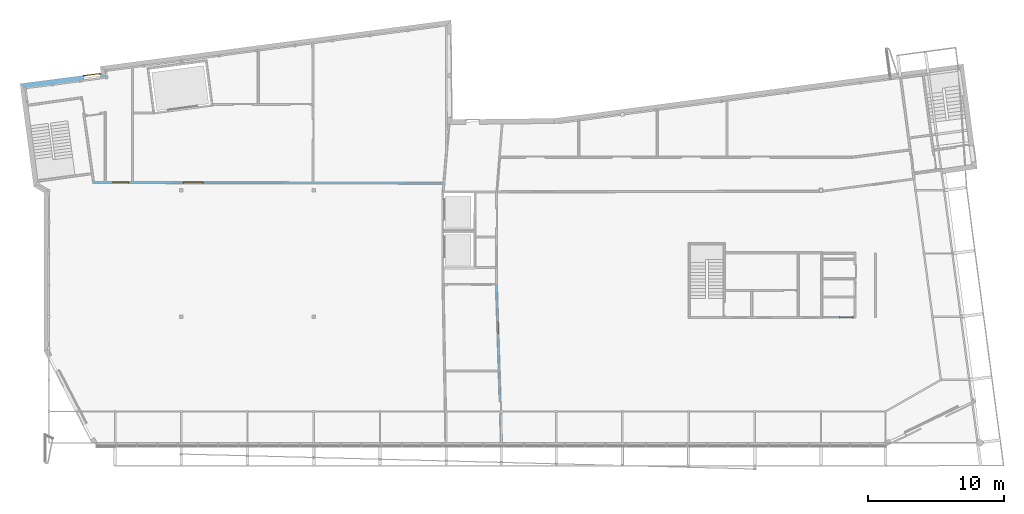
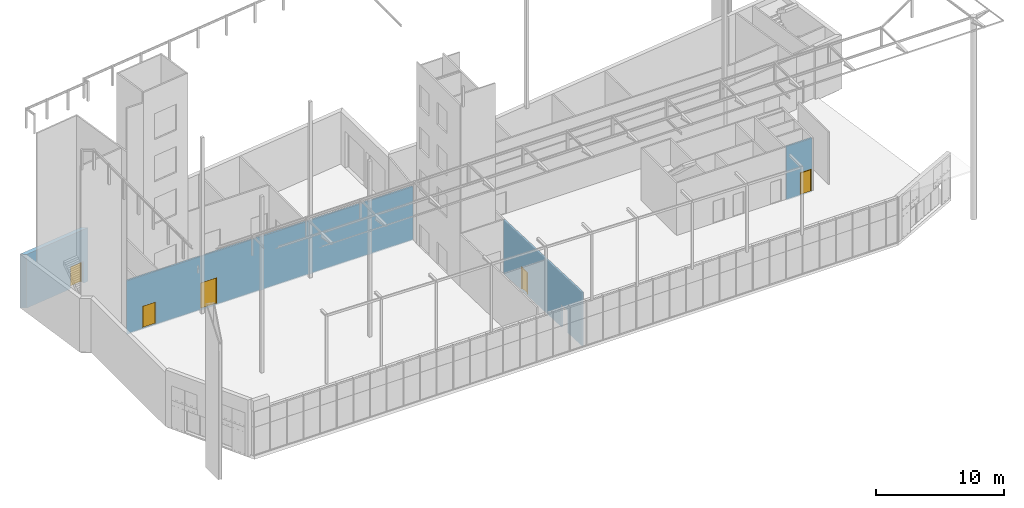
# One storey, part 32 of 40: 5 doors, 6 openings, plus 4 elements that do not belong to this part.
"""IFC2X3 building model written with IfcOpenShell, lengths in metres."""

from ifc_helpers import new_model, entity, si_unit, converted_unit, money_unit, direction, frame, origin_with_axes, origin_2d_with_axis, place, context, subcontext, project, spatial, polyline, rectangle, outline, extrude, faceted_brep, source, transform, mapped, material, material_list, layer, layer_set, layer_usage, type_object, element, fill, save


model = new_model("IFC2X3")

# Units and contexts
model_context = context("Model", 3, precision=1e-05, world=origin_with_axes(), true_north=direction((0.0, 1.0)))
body_context = subcontext(model_context, "Body", "Model", "MODEL_VIEW")
ifc_project = project(units=[si_unit("LENGTHUNIT", "METRE"), si_unit("AREAUNIT", "SQUARE_METRE"), si_unit("VOLUMEUNIT", "CUBIC_METRE"), converted_unit("PLANEANGLEUNIT", "DEGREE", entity("IfcPlaneAngleMeasure", 0.0174532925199), si_unit("PLANEANGLEUNIT", "RADIAN"), dimensions=[0, 0, 0, 0, 0, 0, 0]), si_unit("SOLIDANGLEUNIT", "STERADIAN"), money_unit("EUR"), converted_unit("TIMEUNIT", "Year", entity("IfcTimeMeasure", 31556926.0), si_unit("TIMEUNIT", "SECOND"), dimensions=[0, 0, 0, 0, 0, 0, 0]), si_unit("MASSUNIT", "GRAM"), si_unit("THERMODYNAMICTEMPERATUREUNIT", "DEGREE_CELSIUS"), si_unit("LUMINOUSINTENSITYUNIT", "LUMEN")], contexts=[model_context])

# Site, building, storey
site_placement = place(None, origin_with_axes())
site = spatial("IfcSite", under=ifc_project, at=site_placement, Name="Undefined", CompositionType="ELEMENT")
building_placement = place(site_placement, origin_with_axes())
building = spatial("IfcBuilding", under=site, at=building_placement, Name="Undefined", CompositionType="ELEMENT")
storey_placement = place(building_placement, origin_with_axes())
storey = spatial("IfcBuildingStorey", under=building, at=storey_placement, Name="Rez de chauss\x8ee", CompositionType="ELEMENT", Elevation=0.0)

# Wall, openings, door
ifc_material_1 = material(Name="Finition int - Enduit pl\x89tre")
ifc_layer_1 = layer(ifc_material_1, 0.015, ventilated="UNKNOWN")
ifc_material_2 = material(Name="Struct. - Parpaing b\x8eton")
ifc_layer_2 = layer(ifc_material_2, 0.1, ventilated="UNKNOWN")
ifc_layer_3 = layer(ifc_material_1, 0.015, ventilated="UNKNOWN")
ifc_layer_set_1 = layer_set([ifc_layer_1, ifc_layer_2, ifc_layer_3], Name="0.0-Cloison: parpaing + pl\x89tre 2 faces copie")
ifc_layer_usage_1 = layer_usage(ifc_layer_set_1, "AXIS2", "NEGATIVE", 0.0)
wall_type_1 = type_object("IfcWallType", Name="0.0-Cloison: parpaing + pl\x89tre 2 faces copie 130", PredefinedType="NOTDEFINED")
wall_1_placement = place(storey_placement, frame((33.0137357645, 11.6299225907, 0.0), z_axis=(0.0, 0.0, 1.0), x_axis=(0.0316585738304, -0.999498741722, 0.0)))
wall_1 = element("IfcWallStandardCase", 1, at=wall_1_placement, inside=storey, type_object=wall_type_1, material=ifc_layer_usage_1, Name="Wall_Int_06", context=body_context, shape_type="SweptSolid", body=[
    extrude(outline(polyline([(-0.00205832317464, -0.13), (11.6352806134, -0.13), (11.6352806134, 0.0), (0.0, 0.0), (-0.00205832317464, -0.13)])), origin_with_axes(), (0.0, 0.0, 1.0), 5.12),
])
opening_1_placement = place(wall_1_placement, frame((3.11682407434, 0.0, 0.12), z_axis=(0.0, 0.0, 1.0), x_axis=(1.0, 0.0, 0.0)))
opening_1 = element("IfcOpeningElement", 2, at=opening_1_placement, cuts=wall_1, Name="DOOR_1000", context=body_context, shape_type="SweptSolid", body=[
    extrude(rectangle(XDim=0.9, YDim=2.1, at=origin_2d_with_axis()), frame((0.0, -0.13, 1.05), z_axis=(0.0, 1.0, 0.0), x_axis=(1.0, 0.0, 0.0)), (0.0, 0.0, 1.0), 0.39),
    extrude(rectangle(XDim=0.974, YDim=2.137, at=origin_2d_with_axis()), frame((0.0, -0.26, 1.0685), z_axis=(0.0, 1.0, 0.0), x_axis=(1.0, 0.0, 0.0)), (0.0, 0.0, 1.0), 0.13),
    extrude(rectangle(XDim=0.974, YDim=2.137, at=origin_2d_with_axis()), frame((0.0, 0.13, 1.0685), z_axis=(0.0, -1.0, 0.0), x_axis=(1.0, 0.0, 0.0)), (0.0, 0.0, 1.0), 0.13),
])
opening_2_placement = place(wall_1_placement, frame((9.03947018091, 0.0, 0.0), z_axis=(0.0, 0.0, 1.0), x_axis=(1.0, 0.0, 0.0)))
element("IfcOpeningElement", 3, at=opening_2_placement, cuts=wall_1, Name="DOOR_1000", context=body_context, shape_type="SweptSolid", body=[
    extrude(rectangle(XDim=0.9, YDim=2.1, at=origin_2d_with_axis()), frame((0.0, -0.13, 1.05), z_axis=(0.0, -1.0, 0.0), x_axis=(-1.0, 0.0, 0.0)), (0.0, 0.0, -1.0), 0.39),
    extrude(rectangle(XDim=0.9, YDim=0.105069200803, at=origin_2d_with_axis()), frame((0.0, 0.13, -0.0525346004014), z_axis=(0.0, 1.0, 0.0), x_axis=(-1.0, 0.0, 0.0)), (0.0, 0.0, -1.0), 0.167364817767),
    extrude(rectangle(XDim=0.974, YDim=2.137, at=origin_2d_with_axis()), frame((0.0, -0.26, 1.0685), z_axis=(0.0, -1.0, 0.0), x_axis=(-1.0, 0.0, 0.0)), (0.0, 0.0, -1.0), 0.13),
    extrude(rectangle(XDim=0.974, YDim=2.2420692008, at=origin_2d_with_axis()), frame((0.0, 0.13, 1.0159653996), z_axis=(0.0, 1.0, 0.0), x_axis=(-1.0, 0.0, 0.0)), (0.0, 0.0, -1.0), 0.13),
])
ifc_material_3 = material(Name="Background Fill-International")
ifc_material_4 = material(Name="Air Space")
ifc_material_5 = material(Name="Foreground Fill-International")
ifc_material_6 = material(Name="07 | Insulation Rigid")
ifc_material_list_1 = material_list([ifc_material_3, ifc_material_4, ifc_material_5, ifc_material_3, ifc_material_3, ifc_material_3, ifc_material_3, ifc_material_6, ifc_material_3, ifc_material_3, ifc_material_3, ifc_material_3, ifc_material_4, ifc_material_3, ifc_material_3, ifc_material_3])
door_style_1 = type_object("IfcDoorStyle", Name="Porte 18", ConstructionType="NOTDEFINED", OperationType="SINGLE_SWING_RIGHT", ParameterTakesPrecedence=False, Sizeable=False)
shared_shape_1 = source(origin_with_axes(), body_context, "Body", "Brep", [
    faceted_brep([(-0.45, -0.115, 0.0), (-0.425, -0.115, 0.0), (-0.425, -0.13, 0.0), (-0.45, -0.13, 0.0), (-0.45, -0.115, 2.1), (-0.425, -0.115, 2.075), (-0.425, -0.13, 2.075), (-0.45, -0.13, 2.1)], [[[0, 1, 2, 3]], [[0, 4, 5, 1]], [[1, 5, 6, 2]], [[3, 2, 6, 7]], [[4, 0, 3, 7]], [[5, 4, 7, 6]]]),
    faceted_brep([(0.45, -0.115, 2.1), (0.425, -0.115, 2.075), (0.425, -0.13, 2.075), (0.45, -0.13, 2.1), (0.45, -0.115, 0.0), (0.425, -0.115, 0.0), (0.425, -0.13, 0.0), (0.45, -0.13, 0.0)], [[[0, 1, 2, 3]], [[0, 4, 5, 1]], [[1, 5, 6, 2]], [[3, 2, 6, 7]], [[4, 0, 3, 7]], [[5, 4, 7, 6]]]),
    faceted_brep([(-0.425, -0.115, 2.075), (0.425, -0.115, 2.075), (0.425, -0.13, 2.075), (-0.425, -0.13, 2.075), (-0.45, -0.115, 2.1), (0.45, -0.115, 2.1), (0.45, -0.13, 2.1), (-0.45, -0.13, 2.1)], [[[0, 1, 2, 3]], [[0, 4, 5, 1]], [[1, 5, 6, 2]], [[3, 2, 6, 7]], [[4, 0, 3, 7]], [[5, 4, 7, 6]]]),
    faceted_brep([(-0.487, -0.149, 0.0), (-0.487, -0.13, 0.0), (-0.437, -0.13, 0.0), (-0.437, -0.149, 0.0), (-0.487, -0.149, 2.137), (-0.487, -0.13, 2.137), (-0.437, -0.13, 2.087), (-0.437, -0.149, 2.087)], [[[0, 1, 2, 3]], [[4, 5, 1, 0]], [[1, 5, 6, 2]], [[3, 2, 6, 7]], [[0, 3, 7, 4]], [[7, 6, 5, 4]]]),
    faceted_brep([(0.487, -0.149, 2.137), (0.487, -0.13, 2.137), (0.437, -0.13, 2.087), (0.437, -0.149, 2.087), (0.487, -0.149, 0.0), (0.487, -0.13, 0.0), (0.437, -0.13, 0.0), (0.437, -0.149, 0.0)], [[[0, 1, 2, 3]], [[4, 5, 1, 0]], [[1, 5, 6, 2]], [[3, 2, 6, 7]], [[0, 3, 7, 4]], [[7, 6, 5, 4]]]),
    faceted_brep([(-0.487, -0.149, 2.137), (-0.487, -0.13, 2.137), (-0.437, -0.13, 2.087), (-0.437, -0.149, 2.087), (0.487, -0.149, 2.137), (0.487, -0.13, 2.137), (0.437, -0.13, 2.087), (0.437, -0.149, 2.087)], [[[0, 1, 2, 3]], [[4, 5, 1, 0]], [[1, 5, 6, 2]], [[3, 2, 6, 7]], [[0, 3, 7, 4]], [[7, 6, 5, 4]]]),
    faceted_brep([(-0.487, 0.019, 0.0), (-0.437, 0.019, 0.0), (-0.437, 0.0, 0.0), (-0.487, 0.0, 0.0), (-0.487, 0.019, 2.137), (-0.437, 0.019, 2.087), (-0.437, 0.0, 2.087), (-0.487, 0.0, 2.137)], [[[0, 1, 2, 3]], [[0, 4, 5, 1]], [[1, 5, 6, 2]], [[3, 2, 6, 7]], [[4, 0, 3, 7]], [[5, 4, 7, 6]]]),
    faceted_brep([(0.487, 0.019, 2.137), (0.437, 0.019, 2.087), (0.437, 0.0, 2.087), (0.487, 0.0, 2.137), (0.487, 0.019, 0.0), (0.437, 0.019, 0.0), (0.437, 0.0, 0.0), (0.487, 0.0, 0.0)], [[[0, 1, 2, 3]], [[0, 4, 5, 1]], [[1, 5, 6, 2]], [[3, 2, 6, 7]], [[4, 0, 3, 7]], [[5, 4, 7, 6]]]),
    faceted_brep([(-0.487, 0.019, 2.137), (-0.437, 0.019, 2.087), (-0.437, 0.0, 2.087), (-0.487, 0.0, 2.137), (0.487, 0.019, 2.137), (0.437, 0.019, 2.087), (0.437, 0.0, 2.087), (0.487, 0.0, 2.137)], [[[0, 1, 2, 3]], [[0, 4, 5, 1]], [[1, 5, 6, 2]], [[3, 2, 6, 7]], [[4, 0, 3, 7]], [[5, 4, 7, 6]]]),
    faceted_brep([(-0.41, -0.04, 0.0), (-0.41, -0.04, 2.06), (-0.41, -0.115, 2.06), (-0.41, -0.115, 0.0), (-0.422, -0.04, 2.06), (-0.422, -0.04, 0.0), (-0.422, 0.0, 2.06), (-0.45, 0.0, 2.06), (-0.45, -0.115, 2.06), (-0.45, -0.115, 0.0), (-0.45, 0.0, 0.0), (-0.422, 0.0, 0.0)], [[[0, 1, 2, 3]], [[4, 1, 0, 5]], [[4, 6, 7, 8, 2, 1]], [[8, 9, 3, 2]], [[5, 0, 3, 9, 10, 11]], [[6, 4, 5, 11]], [[6, 11, 10, 7]], [[8, 7, 10, 9]]]),
    faceted_brep([(0.422, -0.04, 2.06), (0.41, -0.04, 2.06), (0.41, -0.115, 2.06), (0.45, -0.115, 2.06), (0.45, 0.0, 2.06), (0.422, 0.0, 2.06), (0.422, -0.04, 0.0), (0.41, -0.04, 0.0), (0.41, -0.115, 0.0), (0.45, -0.115, 0.0), (0.45, 0.0, 0.0), (0.422, 0.0, 0.0)], [[[0, 1, 2, 3, 4, 5]], [[1, 0, 6, 7]], [[1, 7, 8, 2]], [[8, 9, 3, 2]], [[9, 10, 4, 3]], [[11, 5, 4, 10]], [[0, 5, 11, 6]], [[6, 11, 10, 9, 8, 7]]]),
    faceted_brep([(-0.422, 0.0, 2.072), (-0.422, 0.0, 2.06), (-0.45, 0.0, 2.06), (-0.45, 0.0, 2.1), (0.45, 0.0, 2.1), (0.45, 0.0, 2.06), (0.422, 0.0, 2.06), (0.422, 0.0, 2.072), (-0.422, -0.04, 2.072), (-0.422, -0.04, 2.06), (-0.41, -0.04, 2.06), (-0.41, -0.115, 2.06), (-0.45, -0.115, 2.06), (-0.45, -0.115, 2.1), (0.45, -0.115, 2.1), (0.45, -0.115, 2.06), (0.422, -0.04, 2.06), (0.41, -0.115, 2.06), (0.41, -0.04, 2.06), (0.422, -0.04, 2.072)], [[[0, 1, 2, 3, 4, 5, 6, 7]], [[1, 0, 8, 9]], [[9, 10, 11, 12, 2, 1]], [[13, 3, 2, 12]], [[14, 4, 3, 13]], [[15, 5, 4, 14]], [[16, 6, 5, 15, 17, 18]], [[7, 6, 16, 19]], [[0, 7, 19, 8]], [[16, 18, 10, 9, 8, 19]], [[10, 18, 17, 11]], [[14, 13, 12, 11, 17, 15]]]),
    faceted_brep([(0.422, 0.0, 0.0), (0.422, -0.04, 0.0), (-0.422, -0.04, 0.0), (-0.422, 0.0, 0.0), (0.422, 0.0, 2.072), (0.422, -0.04, 2.072), (-0.422, -0.04, 2.072), (-0.422, 0.0, 2.072)], [[[0, 1, 2, 3]], [[4, 5, 1, 0]], [[1, 5, 6, 2]], [[3, 2, 6, 7]], [[0, 3, 7, 4]], [[7, 6, 5, 4]]]),
])
door_1_placement = place(opening_1_placement, frame((-0.45, 0.0, 0.0), z_axis=(0.0, 0.0, 1.0), x_axis=(1.0, 0.0, 0.0)))
door_1 = element("IfcDoor", 4, at=door_1_placement, inside=storey, type_object=door_style_1, material=ifc_material_list_1, Name="DOOR_1000", ObjectType="DOOR", OverallHeight=2.1, OverallWidth=0.9, context=body_context, shape_type="MappedRepresentation", body=[
    mapped(shared_shape_1, transform((0.45, 0.0, 0.0))),
])
fill(opening_1, door_1)

# Wall, opening, door
ifc_layer_usage_2 = layer_usage(ifc_layer_set_1, "AXIS2", "NEGATIVE", 0.05)
wall_2_placement = place(storey_placement, frame((57.0, 9.275, 0.0), z_axis=(0.0, 0.0, 1.0), x_axis=(1.0, 0.0, 0.0)))
wall_2 = element("IfcWallStandardCase", 5, at=wall_2_placement, inside=storey, type_object=wall_type_1, material=ifc_layer_usage_2, Name="VOILE_10CM", ObjectType="5850*100", context=body_context, shape_type="SweptSolid", body=[
    extrude(outline(polyline([(0.0, -0.08), (2.295, -0.08), (2.295, 0.05), (0.0, 0.05), (0.0, -0.08)])), origin_with_axes(), (0.0, 0.0, 1.0), 5.11885554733),
])
opening_3_placement = place(wall_2_placement, frame((1.71978199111, 0.0, 0.12), z_axis=(0.0, 0.0, 1.0), x_axis=(1.0, 0.0, 0.0)))
opening_3 = element("IfcOpeningElement", 6, at=opening_3_placement, cuts=wall_2, Name="DOOR_1000", context=body_context, shape_type="SweptSolid", body=[
    extrude(rectangle(XDim=1.0, YDim=2.1, at=origin_2d_with_axis()), frame((0.0, 0.13, 1.05), z_axis=(0.0, 1.0, 0.0), x_axis=(1.0, 0.0, 0.0)), (0.0, 0.0, -1.0), 0.39),
    extrude(rectangle(XDim=1.02, YDim=2.11, at=origin_2d_with_axis()), frame((0.0, 0.18, 1.055), z_axis=(0.0, 1.0, 0.0), x_axis=(1.0, 0.0, 0.0)), (0.0, 0.0, -1.0), 0.13),
    extrude(rectangle(XDim=1.02, YDim=2.11, at=origin_2d_with_axis()), frame((0.0, -0.21, 1.055), z_axis=(0.0, -1.0, 0.0), x_axis=(1.0, 0.0, 0.0)), (0.0, 0.0, -1.0), 0.13),
])
ifc_material_7 = material(Name="Empty Fill")
ifc_material_8 = material(Name="Foreground")
ifc_material_9 = material(Name="Rigid Insulation")
ifc_material_10 = material(Name="Background")
ifc_material_list_2 = material_list([ifc_material_7, ifc_material_4, ifc_material_8, ifc_material_7, ifc_material_3, ifc_material_7, ifc_material_7, ifc_material_9, ifc_material_3, ifc_material_7, ifc_material_7, ifc_material_7, ifc_material_4, ifc_material_10, ifc_material_10, ifc_material_3])
door_style_2 = type_object("IfcDoorStyle", Name="Porte 18", ConstructionType="NOTDEFINED", OperationType="SINGLE_SWING_LEFT", ParameterTakesPrecedence=False, Sizeable=False)
shared_shape_2 = source(origin_with_axes(), body_context, "Body", "Brep", [
    faceted_brep([(0.51, -0.149, 0.0), (0.46, -0.149, 0.0), (0.46, -0.13, 0.0), (0.51, -0.13, 0.0), (0.51, -0.149, 2.11), (0.46, -0.149, 2.06), (0.46, -0.13, 2.06), (0.51, -0.13, 2.11)], [[[0, 1, 2, 3]], [[0, 4, 5, 1]], [[1, 5, 6, 2]], [[3, 2, 6, 7]], [[4, 0, 3, 7]], [[5, 4, 7, 6]]]),
    faceted_brep([(-0.51, -0.149, 2.11), (-0.46, -0.149, 2.06), (-0.46, -0.13, 2.06), (-0.51, -0.13, 2.11), (-0.51, -0.149, 0.0), (-0.46, -0.149, 0.0), (-0.46, -0.13, 0.0), (-0.51, -0.13, 0.0)], [[[0, 1, 2, 3]], [[0, 4, 5, 1]], [[1, 5, 6, 2]], [[3, 2, 6, 7]], [[4, 0, 3, 7]], [[5, 4, 7, 6]]]),
    faceted_brep([(0.51, -0.149, 2.11), (0.46, -0.149, 2.06), (0.46, -0.13, 2.06), (0.51, -0.13, 2.11), (-0.51, -0.149, 2.11), (-0.46, -0.149, 2.06), (-0.46, -0.13, 2.06), (-0.51, -0.13, 2.11)], [[[0, 1, 2, 3]], [[0, 4, 5, 1]], [[1, 5, 6, 2]], [[3, 2, 6, 7]], [[4, 0, 3, 7]], [[5, 4, 7, 6]]]),
    faceted_brep([(0.51, 0.019, 0.0), (0.51, 0.0, 0.0), (0.46, 0.0, 0.0), (0.46, 0.019, 0.0), (0.51, 0.019, 2.11), (0.51, 0.0, 2.11), (0.46, 0.0, 2.06), (0.46, 0.019, 2.06)], [[[0, 1, 2, 3]], [[4, 5, 1, 0]], [[1, 5, 6, 2]], [[3, 2, 6, 7]], [[0, 3, 7, 4]], [[7, 6, 5, 4]]]),
    faceted_brep([(-0.51, 0.019, 2.11), (-0.51, 0.0, 2.11), (-0.46, 0.0, 2.06), (-0.46, 0.019, 2.06), (-0.51, 0.019, 0.0), (-0.51, 0.0, 0.0), (-0.46, 0.0, 0.0), (-0.46, 0.019, 0.0)], [[[0, 1, 2, 3]], [[4, 5, 1, 0]], [[1, 5, 6, 2]], [[3, 2, 6, 7]], [[0, 3, 7, 4]], [[7, 6, 5, 4]]]),
    faceted_brep([(0.51, 0.019, 2.11), (0.51, 0.0, 2.11), (0.46, 0.0, 2.06), (0.46, 0.019, 2.06), (-0.51, 0.019, 2.11), (-0.51, 0.0, 2.11), (-0.46, 0.0, 2.06), (-0.46, 0.019, 2.06)], [[[0, 1, 2, 3]], [[4, 5, 1, 0]], [[1, 5, 6, 2]], [[3, 2, 6, 7]], [[0, 3, 7, 4]], [[7, 6, 5, 4]]]),
    faceted_brep([(0.46, -0.04, 0.0), (0.46, -0.13, 0.0), (0.46, -0.13, 2.06), (0.46, -0.04, 2.06), (0.472, -0.04, 0.0), (0.472, 0.0, 0.0), (0.5, 0.0, 0.0), (0.5, -0.13, 0.0), (0.5, -0.13, 2.06), (0.472, -0.04, 2.06), (0.5, 0.0, 2.06), (0.472, 0.0, 2.06)], [[[0, 1, 2, 3]], [[4, 5, 6, 7, 1, 0]], [[8, 2, 1, 7]], [[9, 3, 2, 8, 10, 11]], [[9, 4, 0, 3]], [[11, 5, 4, 9]], [[11, 10, 6, 5]], [[8, 7, 6, 10]]]),
    faceted_brep([(-0.472, -0.04, 2.06), (-0.472, 0.0, 2.06), (-0.5, 0.0, 2.06), (-0.5, -0.13, 2.06), (-0.46, -0.13, 2.06), (-0.46, -0.04, 2.06), (-0.472, -0.04, 0.0), (-0.472, 0.0, 0.0), (-0.5, 0.0, 0.0), (-0.5, -0.13, 0.0), (-0.46, -0.13, 0.0), (-0.46, -0.04, 0.0)], [[[0, 1, 2, 3, 4, 5]], [[0, 6, 7, 1]], [[7, 8, 2, 1]], [[9, 3, 2, 8]], [[10, 4, 3, 9]], [[5, 4, 10, 11]], [[5, 11, 6, 0]], [[6, 11, 10, 9, 8, 7]]]),
    faceted_brep([(0.472, 0.0, 2.072), (-0.472, 0.0, 2.072), (-0.472, 0.0, 2.06), (-0.5, 0.0, 2.06), (-0.5, 0.0, 2.1), (0.5, 0.0, 2.1), (0.5, 0.0, 2.06), (0.472, 0.0, 2.06), (0.472, -0.04, 2.072), (-0.472, -0.04, 2.072), (-0.472, -0.04, 2.06), (-0.46, -0.04, 2.06), (-0.46, -0.13, 2.06), (-0.5, -0.13, 2.06), (-0.5, -0.13, 2.1), (0.5, -0.13, 2.1), (0.5, -0.13, 2.06), (0.472, -0.04, 2.06), (0.46, -0.13, 2.06), (0.46, -0.04, 2.06)], [[[0, 1, 2, 3, 4, 5, 6, 7]], [[0, 8, 9, 1]], [[1, 9, 10, 2]], [[10, 11, 12, 13, 3, 2]], [[13, 14, 4, 3]], [[14, 15, 5, 4]], [[15, 16, 6, 5]], [[17, 7, 6, 16, 18, 19]], [[7, 17, 8, 0]], [[10, 9, 8, 17, 19, 11]], [[19, 18, 12, 11]], [[14, 13, 12, 18, 16, 15]]]),
    faceted_brep([(-0.472, 0.0, 0.0), (0.472, 0.0, 0.0), (0.472, -0.04, 0.0), (-0.472, -0.04, 0.0), (-0.472, 0.0, 2.072), (0.472, 0.0, 2.072), (0.472, -0.04, 2.072), (-0.472, -0.04, 2.072)], [[[0, 1, 2, 3]], [[0, 4, 5, 1]], [[1, 5, 6, 2]], [[3, 2, 6, 7]], [[4, 0, 3, 7]], [[5, 4, 7, 6]]]),
])
door_2_placement = place(opening_3_placement, frame((0.5, 0.0, 0.0), z_axis=(0.0, 0.0, 1.0), x_axis=(-1.0, 0.0, 0.0)))
door_2 = element("IfcDoor", 7, at=door_2_placement, inside=storey, type_object=door_style_2, material=ifc_material_list_2, Name="DOOR_1000", ObjectType="DOOR", OverallHeight=2.1, OverallWidth=1.0, context=body_context, shape_type="MappedRepresentation", body=[
    mapped(shared_shape_2, transform((0.5, 0.08, 0.0))),
])
fill(opening_3, door_2)

# Wall, openings, doors
ifc_layer_usage_3 = layer_usage(ifc_layer_set_1, "AXIS2", "NEGATIVE", 0.0)
wall_3_placement = place(storey_placement, frame((3.34368482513, 19.2492296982, 0.0), z_axis=(0.0, 0.0, 1.0), x_axis=(0.999997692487, -0.00214826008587, 0.0)))
wall_3 = element("IfcWallStandardCase", 8, at=wall_3_placement, inside=storey, type_object=wall_type_1, material=ifc_layer_usage_3, Name="Wall_Int_06", context=body_context, shape_type="SweptSolid", body=[
    extrude(outline(polyline([(-0.112560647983, -0.13), (25.6646604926, -0.13), (25.675531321, 0.0), (0.0, 0.0), (-0.112560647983, -0.13)])), origin_with_axes(), (0.0, 0.0, 1.0), 5.12),
])
opening_4_placement = place(wall_3_placement, frame((1.9416639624, 0.0, 0.12), z_axis=(0.0, 0.0, 1.0), x_axis=(1.0, 0.0, 0.0)))
opening_4 = element("IfcOpeningElement", 9, at=opening_4_placement, cuts=wall_3, Name="DOOR", context=body_context, shape_type="SweptSolid", body=[
    extrude(rectangle(XDim=1.2, YDim=2.1, at=origin_2d_with_axis()), frame((0.0, 0.13, 1.05), z_axis=(0.0, -1.0, 0.0), x_axis=(1.0, 0.0, 0.0)), (0.0, 0.0, 1.0), 0.13),
    extrude(rectangle(XDim=1.2, YDim=2.1, at=origin_2d_with_axis()), frame((0.0, -0.13, 1.05), z_axis=(0.0, 1.0, 0.0), x_axis=(1.0, 0.0, 0.0)), (0.0, 0.0, 1.0), 0.13),
])
opening_5_placement = place(wall_3_placement, frame((7.28907889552, 0.0, 0.12), z_axis=(0.0, 0.0, 1.0), x_axis=(1.0, 0.0, 0.0)))
opening_5 = element("IfcOpeningElement", 10, at=opening_5_placement, cuts=wall_3, Name="DOOR", context=body_context, shape_type="SweptSolid", body=[
    extrude(rectangle(XDim=1.5, YDim=2.5, at=origin_2d_with_axis()), frame((0.0, 0.13, 1.25), z_axis=(0.0, -1.0, 0.0), x_axis=(1.0, 0.0, 0.0)), (0.0, 0.0, 1.0), 0.13),
    extrude(rectangle(XDim=1.5, YDim=2.5, at=origin_2d_with_axis()), frame((0.0, -0.13, 1.25), z_axis=(0.0, 1.0, 0.0), x_axis=(1.0, 0.0, 0.0)), (0.0, 0.0, 1.0), 0.13),
])
ifc_material_list_3 = material_list([ifc_material_3, ifc_material_4])
door_style_3 = type_object("IfcDoorStyle", Name="IFC Porte - Simple battant", ConstructionType="NOTDEFINED", OperationType="SINGLE_SWING_RIGHT", ParameterTakesPrecedence=True, Sizeable=False)
shared_shape_3 = source(origin_with_axes(), body_context, "Body", "Brep", [
    faceted_brep([(-0.6, 0.0, 0.0), (-0.55, 0.0, 0.0), (-0.55, -0.1, 0.0), (-0.6, -0.1, 0.0), (-0.6, 0.0, 2.1), (0.6, 0.0, 2.1), (0.6, 0.0, 0.0), (0.55, 0.0, 0.0), (0.55, 0.0, 2.05), (-0.55, 0.0, 2.05), (-0.55, -0.1, 2.05), (0.55, -0.1, 2.05), (0.55, -0.1, 0.0), (0.6, -0.1, 0.0), (0.6, -0.1, 2.1), (-0.6, -0.1, 2.1)], [[[0, 1, 2, 3]], [[0, 4, 5, 6, 7, 8, 9, 1]], [[1, 9, 10, 2]], [[3, 2, 10, 11, 12, 13, 14, 15]], [[4, 0, 3, 15]], [[5, 4, 15, 14]], [[6, 5, 14, 13]], [[7, 6, 13, 12]], [[8, 7, 12, 11]], [[9, 8, 11, 10]]]),
    faceted_brep([(0.55, 0.0, 0.0), (0.55, 0.0, 2.05), (0.55, -0.04, 2.05), (0.55, -0.04, 0.0), (-0.55, 0.0, 0.0), (-0.55, 0.0, 2.05), (-0.55, -0.04, 2.05), (-0.55, -0.04, 0.0)], [[[0, 1, 2, 3]], [[0, 4, 5, 1]], [[1, 5, 6, 2]], [[3, 2, 6, 7]], [[4, 0, 3, 7]], [[5, 4, 7, 6]]]),
])
door_3_placement = place(opening_4_placement, frame((-0.6, 0.0, 0.0), z_axis=(0.0, 0.0, 1.0), x_axis=(1.0, 0.0, 0.0)))
door_3 = element("IfcDoor", 11, at=door_3_placement, inside=storey, type_object=door_style_3, material=ifc_material_list_3, Name="DOOR", ObjectType="DOOR", OverallHeight=2.1, OverallWidth=1.2, context=body_context, shape_type="MappedRepresentation", body=[
    mapped(shared_shape_3, transform((0.6, 0.0, 0.0))),
])
fill(opening_4, door_3)
door_style_4 = type_object("IfcDoorStyle", Name="IFC Porte double - Double battant", ConstructionType="ALUMINIUM", OperationType="DOUBLE_DOOR_DOUBLE_SWING", ParameterTakesPrecedence=True, Sizeable=False)
shared_shape_4 = source(origin_with_axes(), body_context, "Body", "Brep", [
    faceted_brep([(-0.75, 0.0, 0.0), (-0.7, 0.0, 0.0), (-0.7, -0.1, 0.0), (-0.75, -0.1, 0.0), (-0.75, 0.0, 2.5), (0.75, 0.0, 2.5), (0.75, 0.0, 0.0), (0.7, 0.0, 0.0), (0.7, 0.0, 2.45), (-0.7, 0.0, 2.45), (-0.7, -0.1, 2.45), (0.7, -0.1, 2.45), (0.7, -0.1, 0.0), (0.75, -0.1, 0.0), (0.75, -0.1, 2.5), (-0.75, -0.1, 2.5)], [[[0, 1, 2, 3]], [[0, 4, 5, 6, 7, 8, 9, 1]], [[1, 9, 10, 2]], [[3, 2, 10, 11, 12, 13, 14, 15]], [[4, 0, 3, 15]], [[5, 4, 15, 14]], [[6, 5, 14, 13]], [[7, 6, 13, 12]], [[8, 7, 12, 11]], [[9, 8, 11, 10]]]),
    faceted_brep([(0.7, 0.0, 0.0), (0.0, 0.0, 0.0), (0.0, 0.0, 2.45), (0.7, 0.0, 2.45), (0.7, -0.04, 0.0), (0.0, -0.04, 0.0), (0.0, -0.04, 2.45), (0.7, -0.04, 2.45)], [[[0, 1, 2, 3]], [[1, 0, 4, 5]], [[2, 1, 5, 6]], [[3, 2, 6, 7]], [[0, 3, 7, 4]], [[5, 4, 7, 6]]]),
    faceted_brep([(0.0, 0.0, 0.0), (-0.7, 0.0, 0.0), (-0.7, 0.0, 2.45), (0.0, 0.0, 2.45), (0.0, -0.04, 0.0), (-0.7, -0.04, 0.0), (-0.7, -0.04, 2.45), (0.0, -0.04, 2.45)], [[[0, 1, 2, 3]], [[1, 0, 4, 5]], [[2, 1, 5, 6]], [[3, 2, 6, 7]], [[0, 3, 7, 4]], [[5, 4, 7, 6]]]),
])
door_4_placement = place(opening_5_placement, frame((-0.75, 0.0, 0.0), z_axis=(0.0, 0.0, 1.0), x_axis=(1.0, 0.0, 0.0)))
door_4 = element("IfcDoor", 12, at=door_4_placement, inside=storey, type_object=door_style_4, material=ifc_material_list_3, Name="DOOR", ObjectType="DOOR", OverallHeight=2.5, OverallWidth=1.5, context=body_context, shape_type="MappedRepresentation", body=[
    mapped(shared_shape_4, transform((0.75, 0.0, 0.0))),
])
fill(opening_5, door_4)

# Wall, opening, door
ifc_material_11 = material(Name="Finition ext - Cr\x8epis")
ifc_layer_4 = layer(ifc_material_11, 0.015, ventilated="UNKNOWN")
ifc_material_12 = material(Name="Isolation - Fibres de bois")
ifc_layer_5 = layer(ifc_material_12, 0.16, ventilated="UNKNOWN")
ifc_material_13 = material(Name="Struct. - B.A. banch\x8e")
ifc_layer_6 = layer(ifc_material_13, 0.18, ventilated="UNKNOWN")
ifc_layer_7 = layer(ifc_material_1, 0.015, ventilated="UNKNOWN")
ifc_layer_set_2 = layer_set([ifc_layer_4, ifc_layer_5, ifc_layer_6, ifc_layer_7], Name="1.2-Mur ext: rev\x8et ext + isol ext + ma\x8donnerie + enduit")
ifc_layer_usage_4 = layer_usage(ifc_layer_set_2, "AXIS2", "POSITIVE", 0.0)
wall_type_2 = type_object("IfcWallType", Name="1.2-Mur ext: rev\x8et ext + isol ext + ma\x8donnerie + enduit 370", PredefinedType="NOTDEFINED")
wall_4_placement = place(storey_placement, frame((3.83754908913, 27.2289650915, 0.0), z_axis=(0.0, 0.0, 1.0), x_axis=(-0.991731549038, -0.128329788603, 0.0)))
wall_4 = element("IfcWallStandardCase", 13, at=wall_4_placement, inside=storey, type_object=wall_type_2, material=ifc_layer_usage_4, Name="WallEx02", ObjectType="WALL", context=body_context, shape_type="SweptSolid", body=[
    extrude(outline(polyline([(0.0, 0.0), (6.01504925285, 0.0), (5.64358081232, 0.37), (-0.371468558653, 0.37), (0.0, 0.0)])), origin_with_axes(), (0.0, 0.0, 1.0), 5.12),
])
opening_6_placement = place(wall_4_placement, frame((0.684183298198, 0.0, 0.0), z_axis=(0.0, 0.0, 1.0), x_axis=(1.0, 0.0, 0.0)))
opening_6 = element("IfcOpeningElement", 14, at=opening_6_placement, cuts=wall_4, Name="DOOR", context=body_context, shape_type="SweptSolid", body=[
    extrude(rectangle(XDim=1.25889482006, YDim=2.1, at=origin_2d_with_axis()), frame((0.0, -0.37, 1.05), z_axis=(0.0, 1.0, 0.0), x_axis=(1.0, 0.0, 0.0)), (0.0, 0.0, 1.0), 0.37),
    extrude(rectangle(XDim=1.25889482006, YDim=2.1, at=origin_2d_with_axis()), frame((0.0, 0.37, 1.05), z_axis=(0.0, -1.0, 0.0), x_axis=(1.0, 0.0, 0.0)), (0.0, 0.0, 1.0), 0.37),
])
shared_shape_5 = source(origin_with_axes(), body_context, "Body", "Brep", [
    faceted_brep([(-0.629447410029, 0.0, 0.0), (-0.579447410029, 0.0, 0.0), (-0.579447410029, -0.1, 0.0), (-0.629447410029, -0.1, 0.0), (-0.629447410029, 0.0, 2.1), (0.629447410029, 0.0, 2.1), (0.629447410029, 0.0, 0.0), (0.579447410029, 0.0, 0.0), (0.579447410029, 0.0, 2.05), (-0.579447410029, 0.0, 2.05), (-0.579447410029, -0.1, 2.05), (0.579447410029, -0.1, 2.05), (0.579447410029, -0.1, 0.0), (0.629447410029, -0.1, 0.0), (0.629447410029, -0.1, 2.1), (-0.629447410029, -0.1, 2.1)], [[[0, 1, 2, 3]], [[0, 4, 5, 6, 7, 8, 9, 1]], [[1, 9, 10, 2]], [[3, 2, 10, 11, 12, 13, 14, 15]], [[4, 0, 3, 15]], [[5, 4, 15, 14]], [[6, 5, 14, 13]], [[7, 6, 13, 12]], [[8, 7, 12, 11]], [[9, 8, 11, 10]]]),
    faceted_brep([(0.579447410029, 0.0, 0.0), (0.579447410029, 0.0, 2.05), (0.579447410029, -0.04, 2.05), (0.579447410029, -0.04, 0.0), (-0.579447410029, 0.0, 0.0), (-0.579447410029, 0.0, 2.05), (-0.579447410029, -0.04, 2.05), (-0.579447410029, -0.04, 0.0)], [[[0, 1, 2, 3]], [[0, 4, 5, 1]], [[1, 5, 6, 2]], [[3, 2, 6, 7]], [[4, 0, 3, 7]], [[5, 4, 7, 6]]]),
])
door_5_placement = place(opening_6_placement, frame((0.629447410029, 0.0, 0.0), z_axis=(0.0, 0.0, 1.0), x_axis=(-1.0, 0.0, 0.0)))
door_5 = element("IfcDoor", 15, at=door_5_placement, inside=storey, type_object=door_style_3, material=ifc_material_list_3, Name="DOOR", ObjectType="DOOR", OverallHeight=2.1, OverallWidth=1.25889, context=body_context, shape_type="MappedRepresentation", body=[
    mapped(shared_shape_5, transform((0.629447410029, 0.0, 0.0))),
])
fill(opening_6, door_5)

save(model, "model.ifc")
